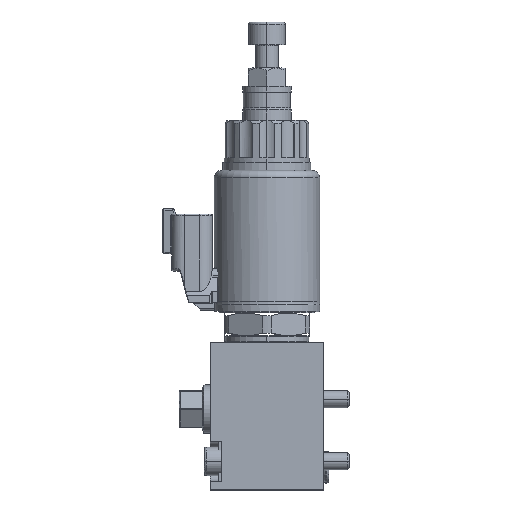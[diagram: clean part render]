
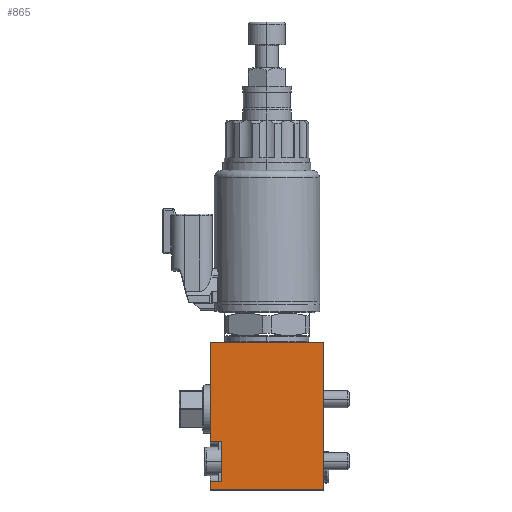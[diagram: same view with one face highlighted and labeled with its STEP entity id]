
A CAD part, top view. The second image highlights one B-rep face of the part: STEP entity #865.
In plain terms, the highlighted planar face has unit normal (0, 0, 1).
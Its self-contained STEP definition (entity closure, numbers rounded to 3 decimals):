
#865 = ADVANCED_FACE ( 'NONE', ( #10119 ), #10616, .T. ) ;
#1577 = ORIENTED_EDGE ( 'NONE', *, *, #25058, .T. ) ;
#2248 = EDGE_CURVE ( 'NONE', #35188, #8223, #13535, .T. ) ;
#4358 = CARTESIAN_POINT ( 'NONE',  ( 19.232, -35., 44. ) ) ;
#5286 = VECTOR ( 'NONE', #33450, 1000. ) ;
#5577 = CARTESIAN_POINT ( 'NONE',  ( 0., -52., 44. ) ) ;
#5807 = LINE ( 'NONE', #5577, #28801 ) ;
#6336 = EDGE_CURVE ( 'NONE', #8223, #36419, #23623, .T. ) ;
#6839 = AXIS2_PLACEMENT_3D ( 'NONE', #37789, #7920, #14721 ) ;
#7920 = DIRECTION ( 'NONE',  ( 0., 0., 1. ) ) ;
#8223 = VERTEX_POINT ( 'NONE', #40357 ) ;
#8945 = CARTESIAN_POINT ( 'NONE',  ( 19.232, -49., 44. ) ) ;
#9187 = VECTOR ( 'NONE', #32003, 1000. ) ;
#10119 = FACE_OUTER_BOUND ( 'NONE', #17811, .T. ) ;
#10616 = PLANE ( 'NONE',  #6839 ) ;
#12202 = LINE ( 'NONE', #38421, #13214 ) ;
#12338 = ORIENTED_EDGE ( 'NONE', *, *, #2248, .T. ) ;
#13214 = VECTOR ( 'NONE', #19707, 1000. ) ;
#13535 = LINE ( 'NONE', #8945, #9187 ) ;
#13914 = CARTESIAN_POINT ( 'NONE',  ( 0., 0., 44. ) ) ;
#14721 = DIRECTION ( 'NONE',  ( 1., 0., 0. ) ) ;
#15329 = VERTEX_POINT ( 'NONE', #32593 ) ;
#15336 = EDGE_CURVE ( 'NONE', #36419, #23935, #5807, .T. ) ;
#16339 = VECTOR ( 'NONE', #36433, 1000. ) ;
#17430 = CARTESIAN_POINT ( 'NONE',  ( 4., -49., 44. ) ) ;
#17512 = CARTESIAN_POINT ( 'NONE',  ( 40., 0., 44. ) ) ;
#17724 = CARTESIAN_POINT ( 'NONE',  ( 4., 0., 44. ) ) ;
#17811 = EDGE_LOOP ( 'NONE', ( #38890, #12338, #35404, #45840, #40494, #1577, #22625, #40729 ) ) ;
#17851 = EDGE_CURVE ( 'NONE', #25875, #15329, #26227, .T. ) ;
#19707 = DIRECTION ( 'NONE',  ( 0., 1., 0. ) ) ;
#20208 = DIRECTION ( 'NONE',  ( 0., -1., 0. ) ) ;
#21001 = VECTOR ( 'NONE', #43542, 1000. ) ;
#21625 = LINE ( 'NONE', #17724, #16339 ) ;
#22625 = ORIENTED_EDGE ( 'NONE', *, *, #32257, .T. ) ;
#22738 = CARTESIAN_POINT ( 'NONE',  ( 0., 0., 44. ) ) ;
#23623 = LINE ( 'NONE', #46682, #47703 ) ;
#23935 = VERTEX_POINT ( 'NONE', #24219 ) ;
#24219 = CARTESIAN_POINT ( 'NONE',  ( 40., -52., 44. ) ) ;
#25058 = EDGE_CURVE ( 'NONE', #27795, #47751, #28711, .T. ) ;
#25847 = EDGE_CURVE ( 'NONE', #23935, #27795, #12202, .T. ) ;
#25875 = VERTEX_POINT ( 'NONE', #47115 ) ;
#25960 = EDGE_CURVE ( 'NONE', #35188, #25875, #21625, .T. ) ;
#26227 = LINE ( 'NONE', #4358, #36623 ) ;
#26660 = LINE ( 'NONE', #41034, #5286 ) ;
#27795 = VERTEX_POINT ( 'NONE', #17512 ) ;
#28711 = LINE ( 'NONE', #13914, #21001 ) ;
#28801 = VECTOR ( 'NONE', #37712, 1000. ) ;
#32003 = DIRECTION ( 'NONE',  ( -1., 0., 0. ) ) ;
#32257 = EDGE_CURVE ( 'NONE', #47751, #15329, #26660, .T. ) ;
#32593 = CARTESIAN_POINT ( 'NONE',  ( 0., -35., 44. ) ) ;
#33244 = DIRECTION ( 'NONE',  ( -1., 0., 0. ) ) ;
#33450 = DIRECTION ( 'NONE',  ( 0., -1., 0. ) ) ;
#35188 = VERTEX_POINT ( 'NONE', #17430 ) ;
#35404 = ORIENTED_EDGE ( 'NONE', *, *, #6336, .T. ) ;
#36419 = VERTEX_POINT ( 'NONE', #41060 ) ;
#36433 = DIRECTION ( 'NONE',  ( 0., 1., 0. ) ) ;
#36623 = VECTOR ( 'NONE', #33244, 1000. ) ;
#37712 = DIRECTION ( 'NONE',  ( 1., 0., 0. ) ) ;
#37789 = CARTESIAN_POINT ( 'NONE',  ( 0., 0., 44. ) ) ;
#38421 = CARTESIAN_POINT ( 'NONE',  ( 40., 0., 44. ) ) ;
#38890 = ORIENTED_EDGE ( 'NONE', *, *, #25960, .F. ) ;
#40357 = CARTESIAN_POINT ( 'NONE',  ( 0., -49., 44. ) ) ;
#40494 = ORIENTED_EDGE ( 'NONE', *, *, #25847, .T. ) ;
#40729 = ORIENTED_EDGE ( 'NONE', *, *, #17851, .F. ) ;
#41034 = CARTESIAN_POINT ( 'NONE',  ( 0., 0., 44. ) ) ;
#41060 = CARTESIAN_POINT ( 'NONE',  ( 0., -52., 44. ) ) ;
#43542 = DIRECTION ( 'NONE',  ( -1., 0., 0. ) ) ;
#45840 = ORIENTED_EDGE ( 'NONE', *, *, #15336, .T. ) ;
#46682 = CARTESIAN_POINT ( 'NONE',  ( 0., 0., 44. ) ) ;
#47115 = CARTESIAN_POINT ( 'NONE',  ( 4., -35., 44. ) ) ;
#47703 = VECTOR ( 'NONE', #20208, 1000. ) ;
#47751 = VERTEX_POINT ( 'NONE', #22738 ) ;
